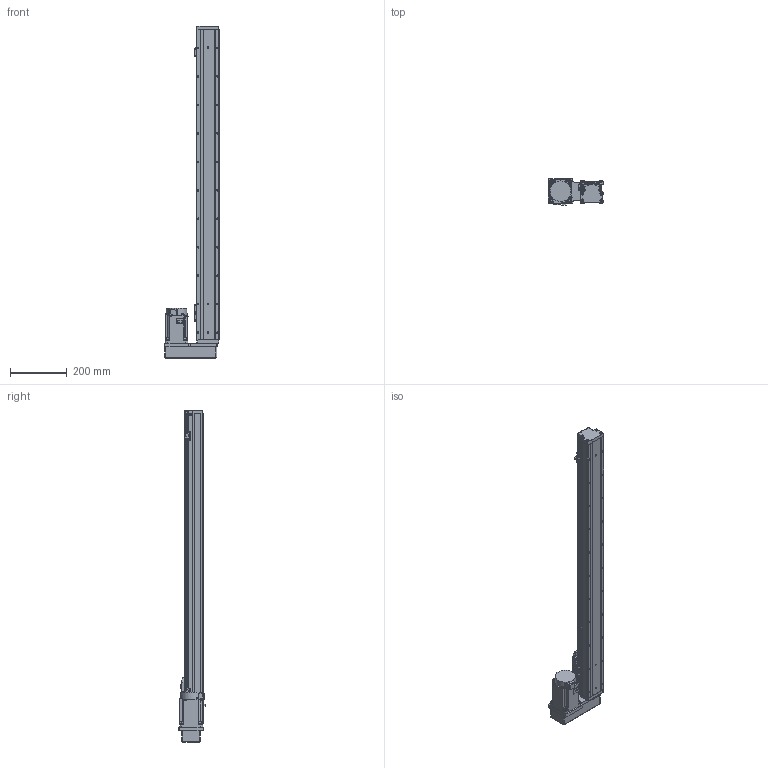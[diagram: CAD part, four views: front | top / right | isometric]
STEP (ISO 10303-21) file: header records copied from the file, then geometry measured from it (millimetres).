
FILE_DESCRIPTION (( 'STEP AP203' ), '1' );
FILE_NAME ('GTH8-900-BL-M75-C4.step', '2023-02-14T02:25:53', ( '微软用户' ), ( '微软中国' ), 'SwSTEP 2.0', 'SolidWorks 2020', '' );
FILE_SCHEMA (( 'CONFIG_CONTROL_DESIGN' ));
Length unit declared in the file: millimetre
Products named in the file (18): GTH80-013; GTH50-023; GBT 70.3-M3℅6; GBT96.1-2002 3×0.8; GTH80-022; BTH-M3X5X6; GTH80-001_900; GBT 70.1-M3℅6; CTHA86-015-3_CTHA86-015-4; GTH80-003; GBT 70.1-M4×16; CTHA86-035; GTH80-004; GTH80-028; hg-kn73j_-s100; GTH80-006; GTH50-024; GTH8-900-BL-M75-C4
Assembly tree (57 placements, depth 2):
  GTH8-900-BL-M75-C4
    GTH80-001_900
    GTH80-003
    GTH80-004
    GTH80-006
    GTH80-013
    GBT 70.3-M3℅6  x4
    GTH80-022
    GBT 70.1-M3℅6  x14
    GBT 70.1-M4×16  x8
    GTH80-028  x2
    GTH50-024  x3
    GTH50-023  x3
    GBT96.1-2002 3×0.8  x6
    BTH-M3X5X6  x8
    CTHA86-015-3_CTHA86-015-4
    CTHA86-035
    hg-kn73j_-s100
Bounding box: 193.5 x 92.3 x 1166 mm (x, y, z)
Volume: 6264247.2 mm3; surface area: 605998.2 mm2
Topology: 59 solids, 59 shells, 2207 faces, 5130 edges, 3144 vertices
Faces by surface type: plane 1153, cylinder 639, cone 243, torus 158, sphere 12, bspline 2
Entity records: 40032 total; most frequent: CARTESIAN_POINT 6719, DIRECTION 6613, ORIENTED_EDGE 6070, EDGE_CURVE 3035, AXIS2_PLACEMENT_3D 2338, LINE 1937, VECTOR 1937, VERTEX_POINT 1919
